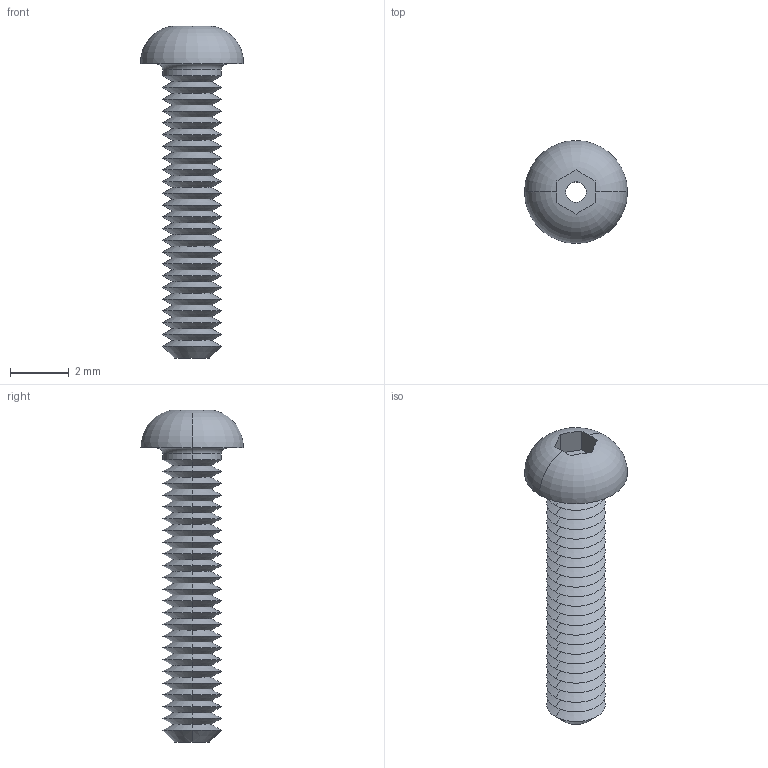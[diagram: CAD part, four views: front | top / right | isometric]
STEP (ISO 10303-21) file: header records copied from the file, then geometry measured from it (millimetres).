
FILE_DESCRIPTION (( 'STEP AP203' ), '1' );
FILE_NAME ('P0094.020-010-A2.step', '2019-07-12T16:49:41', ( '' ), ( '' ), 'SwSTEP 2.0', 'SolidWorks 2017', '' );
FILE_SCHEMA (( 'CONFIG_CONTROL_DESIGN' ));
Length unit declared in the file: millimetre
Products named in the file (1): P0094.020-010-A2
Bounding box: 3.5 x 3.5 x 11.29 mm (x, y, z)
Volume: 26.4 mm3; surface area: 151.2 mm2
Topology: 1 solids, 1 shells, 111 faces, 228 edges, 120 vertices
Faces by surface type: cone 94, plane 9, cylinder 4, torus 4
Entity records: 2945 total; most frequent: DIRECTION 554, CARTESIAN_POINT 496, ORIENTED_EDGE 456, EDGE_CURVE 228, AXIS2_PLACEMENT_3D 222, VERTEX_POINT 120, EDGE_LOOP 114, FACE_OUTER_BOUND 111
